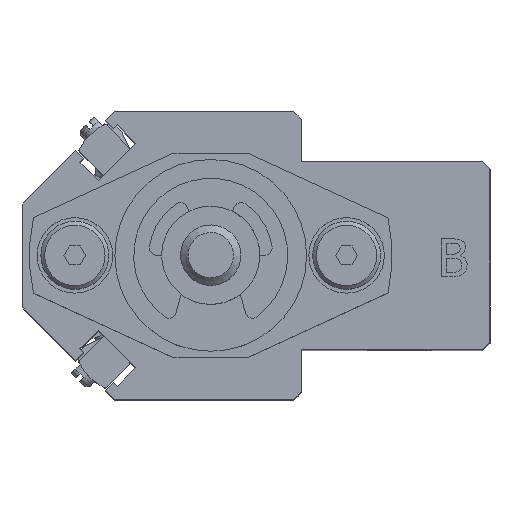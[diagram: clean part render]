
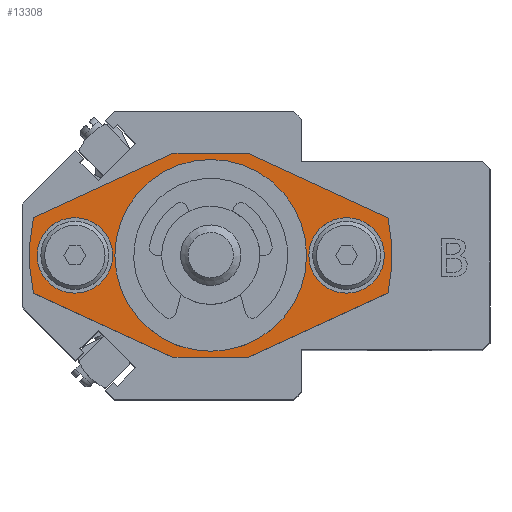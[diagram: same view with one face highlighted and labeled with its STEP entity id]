
A CAD part, top view. The second image highlights one B-rep face of the part: STEP entity #13308.
In plain terms, the highlighted planar face has unit normal (0, 0, 1).
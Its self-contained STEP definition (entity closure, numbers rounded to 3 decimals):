
#373=FACE_BOUND('',#4846,.T.);
#374=FACE_BOUND('',#4847,.T.);
#375=FACE_BOUND('',#4848,.T.);
#1554=LINE('',#21790,#2947);
#1561=LINE('',#21807,#2954);
#1562=LINE('',#21810,#2955);
#1563=LINE('',#21811,#2956);
#1564=LINE('',#21813,#2957);
#1565=LINE('',#21814,#2958);
#2947=VECTOR('',#17695,10.);
#2954=VECTOR('',#17710,10.);
#2955=VECTOR('',#17713,10.);
#2956=VECTOR('',#17714,10.);
#2957=VECTOR('',#17715,10.);
#2958=VECTOR('',#17716,10.);
#3440=CIRCLE('',#14586,10.5);
#3441=CIRCLE('',#14587,10.5);
#3448=CIRCLE('',#14598,24.);
#3450=CIRCLE('',#14601,24.);
#3453=CIRCLE('',#14608,5.);
#3454=CIRCLE('',#14609,5.);
#3455=CIRCLE('',#14610,5.);
#3456=CIRCLE('',#14611,5.);
#4138=FACE_OUTER_BOUND('',#4845,.T.);
#4845=EDGE_LOOP('',(#11152,#11153,#11154,#11155,#11156,#11157,#11158,#11159));
#4846=EDGE_LOOP('',(#11160,#11161));
#4847=EDGE_LOOP('',(#11162,#11163));
#4848=EDGE_LOOP('',(#11164,#11165));
#6052=VERTEX_POINT('',#21748);
#6053=VERTEX_POINT('',#21750);
#6061=VERTEX_POINT('',#21771);
#6062=VERTEX_POINT('',#21773);
#6065=VERTEX_POINT('',#21780);
#6066=VERTEX_POINT('',#21782);
#6068=VERTEX_POINT('',#21788);
#6074=VERTEX_POINT('',#21805);
#6075=VERTEX_POINT('',#21809);
#6076=VERTEX_POINT('',#21812);
#6077=VERTEX_POINT('',#21815);
#6078=VERTEX_POINT('',#21816);
#6079=VERTEX_POINT('',#21819);
#6080=VERTEX_POINT('',#21820);
#7808=EDGE_CURVE('',#6053,#6052,#3440,.T.);
#7809=EDGE_CURVE('',#6052,#6053,#3441,.T.);
#7818=EDGE_CURVE('',#6062,#6061,#3448,.T.);
#7822=EDGE_CURVE('',#6066,#6065,#3450,.T.);
#7826=EDGE_CURVE('',#6061,#6068,#1554,.T.);
#7835=EDGE_CURVE('',#6065,#6074,#1561,.T.);
#7836=EDGE_CURVE('',#6068,#6075,#1562,.T.);
#7837=EDGE_CURVE('',#6075,#6066,#1563,.T.);
#7838=EDGE_CURVE('',#6074,#6076,#1564,.T.);
#7839=EDGE_CURVE('',#6076,#6062,#1565,.T.);
#7840=EDGE_CURVE('',#6077,#6078,#3453,.T.);
#7841=EDGE_CURVE('',#6078,#6077,#3454,.T.);
#7842=EDGE_CURVE('',#6079,#6080,#3455,.T.);
#7843=EDGE_CURVE('',#6080,#6079,#3456,.T.);
#11152=ORIENTED_EDGE('',*,*,#7818,.T.);
#11153=ORIENTED_EDGE('',*,*,#7826,.T.);
#11154=ORIENTED_EDGE('',*,*,#7836,.T.);
#11155=ORIENTED_EDGE('',*,*,#7837,.T.);
#11156=ORIENTED_EDGE('',*,*,#7822,.T.);
#11157=ORIENTED_EDGE('',*,*,#7835,.T.);
#11158=ORIENTED_EDGE('',*,*,#7838,.T.);
#11159=ORIENTED_EDGE('',*,*,#7839,.T.);
#11160=ORIENTED_EDGE('',*,*,#7808,.T.);
#11161=ORIENTED_EDGE('',*,*,#7809,.T.);
#11162=ORIENTED_EDGE('',*,*,#7840,.T.);
#11163=ORIENTED_EDGE('',*,*,#7841,.T.);
#11164=ORIENTED_EDGE('',*,*,#7842,.T.);
#11165=ORIENTED_EDGE('',*,*,#7843,.T.);
#12503=PLANE('',#14607);
#13308=ADVANCED_FACE('',(#4138,#373,#374,#375),#12503,.T.);
#14586=AXIS2_PLACEMENT_3D('',#21751,#17654,#17655);
#14587=AXIS2_PLACEMENT_3D('',#21752,#17656,#17657);
#14598=AXIS2_PLACEMENT_3D('',#21774,#17680,#17681);
#14601=AXIS2_PLACEMENT_3D('',#21783,#17688,#17689);
#14607=AXIS2_PLACEMENT_3D('',#21808,#17711,#17712);
#14608=AXIS2_PLACEMENT_3D('',#21817,#17717,#17718);
#14609=AXIS2_PLACEMENT_3D('',#21818,#17719,#17720);
#14610=AXIS2_PLACEMENT_3D('',#21821,#17721,#17722);
#14611=AXIS2_PLACEMENT_3D('',#21822,#17723,#17724);
#17654=DIRECTION('center_axis',(0.,0.,-1.));
#17655=DIRECTION('ref_axis',(1.,0.,0.));
#17656=DIRECTION('center_axis',(0.,0.,-1.));
#17657=DIRECTION('ref_axis',(1.,0.,0.));
#17680=DIRECTION('center_axis',(0.,0.,1.));
#17681=DIRECTION('ref_axis',(0.978,-0.208,0.));
#17688=DIRECTION('center_axis',(0.,0.,1.));
#17689=DIRECTION('ref_axis',(-0.978,0.208,0.));
#17695=DIRECTION('',(0.908,-0.418,0.));
#17710=DIRECTION('',(-0.908,0.418,0.));
#17711=DIRECTION('center_axis',(0.,0.,1.));
#17712=DIRECTION('ref_axis',(1.,0.,0.));
#17713=DIRECTION('',(1.,0.,0.));
#17714=DIRECTION('',(0.908,0.418,0.));
#17715=DIRECTION('',(-1.,0.,0.));
#17716=DIRECTION('',(-0.908,-0.418,0.));
#17717=DIRECTION('center_axis',(0.,0.,-1.));
#17718=DIRECTION('ref_axis',(1.,0.,0.));
#17719=DIRECTION('center_axis',(0.,0.,-1.));
#17720=DIRECTION('ref_axis',(1.,0.,0.));
#17721=DIRECTION('center_axis',(0.,0.,-1.));
#17722=DIRECTION('ref_axis',(1.,0.,0.));
#17723=DIRECTION('center_axis',(0.,0.,-1.));
#17724=DIRECTION('ref_axis',(1.,0.,0.));
#21748=CARTESIAN_POINT('',(-10.5,0.,6.));
#21750=CARTESIAN_POINT('',(10.5,0.,6.));
#21751=CARTESIAN_POINT('Origin',(0.,0.,6.));
#21752=CARTESIAN_POINT('Origin',(0.,0.,6.));
#21771=CARTESIAN_POINT('',(-23.473,-5.001,6.));
#21773=CARTESIAN_POINT('',(-23.473,5.001,6.));
#21774=CARTESIAN_POINT('Origin',(0.,0.,6.));
#21780=CARTESIAN_POINT('',(23.473,5.001,6.));
#21782=CARTESIAN_POINT('',(23.473,-5.001,6.));
#21783=CARTESIAN_POINT('Origin',(0.,0.,6.));
#21788=CARTESIAN_POINT('',(-5.,-13.5,6.));
#21790=CARTESIAN_POINT('',(-15.7,-8.578,6.));
#21805=CARTESIAN_POINT('',(5.,13.5,6.));
#21807=CARTESIAN_POINT('',(15.7,8.578,6.));
#21808=CARTESIAN_POINT('Origin',(0.,0.,6.));
#21809=CARTESIAN_POINT('',(5.,-13.5,6.));
#21810=CARTESIAN_POINT('',(25.4,-13.5,6.));
#21811=CARTESIAN_POINT('',(15.7,-8.578,6.));
#21812=CARTESIAN_POINT('',(-5.,13.5,6.));
#21813=CARTESIAN_POINT('',(-25.4,13.5,6.));
#21814=CARTESIAN_POINT('',(-15.7,8.578,6.));
#21815=CARTESIAN_POINT('',(-13.,0.,6.));
#21816=CARTESIAN_POINT('',(-23.,0.,6.));
#21817=CARTESIAN_POINT('Origin',(-18.,0.,6.));
#21818=CARTESIAN_POINT('Origin',(-18.,0.,6.));
#21819=CARTESIAN_POINT('',(23.,0.,6.));
#21820=CARTESIAN_POINT('',(13.,0.,6.));
#21821=CARTESIAN_POINT('Origin',(18.,0.,6.));
#21822=CARTESIAN_POINT('Origin',(18.,0.,6.));
